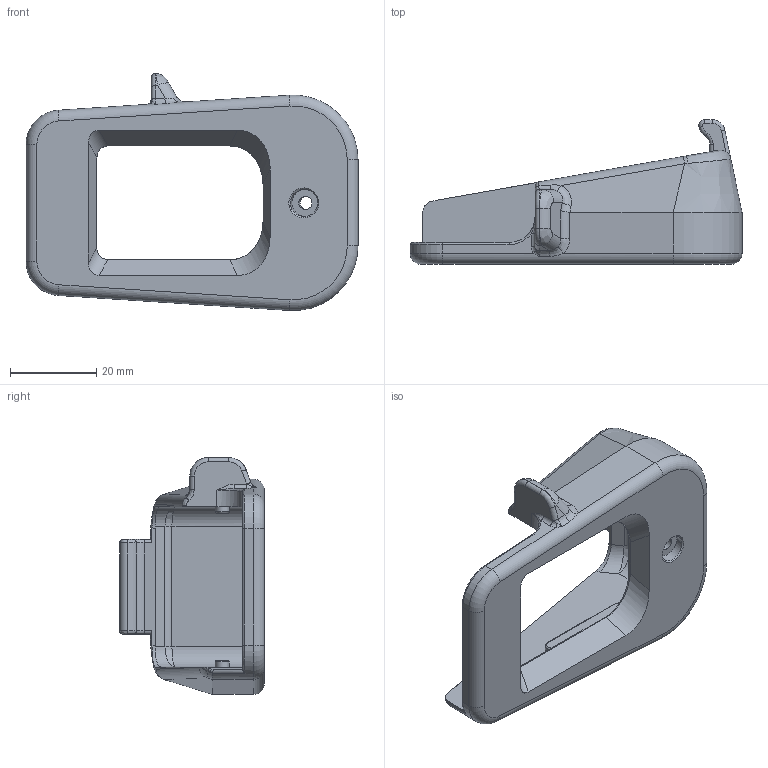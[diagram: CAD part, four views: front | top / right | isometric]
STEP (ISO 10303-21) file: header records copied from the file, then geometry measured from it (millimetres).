
FILE_DESCRIPTION((''),'1');
FILE_NAME('OPTION-MAGWELL-4','2026-01-19T',('PROWIN'),(''),'PRO/ENGINEER BY PARAMETRIC TECHNOLOGY CORPORATION, 1999140','PRO/ENGINEER BY PARAMETRIC TECHNOLOGY CORPORATION, 1999140','');
FILE_SCHEMA(('CONFIG_CONTROL_DESIGN'));
Length unit declared in the file: millimetre
Products named in the file (1): OPTION-MAGWELL-4
Bounding box: 77 x 33.5 x 54.96 mm (x, y, z)
Volume: 23327.9 mm3; surface area: 12013.9 mm2
Topology: 1 solids, 1 shells, 159 faces, 406 edges, 254 vertices
Faces by surface type: cylinder 62, plane 41, bspline 34, torus 18, extrusion 4
Entity records: 6574 total; most frequent: CARTESIAN_POINT 2950, ORIENTED_EDGE 776, DIRECTION 679, EDGE_CURVE 388, AXIS2_PLACEMENT_3D 250, VERTEX_POINT 234, VECTOR 179, LINE 175
